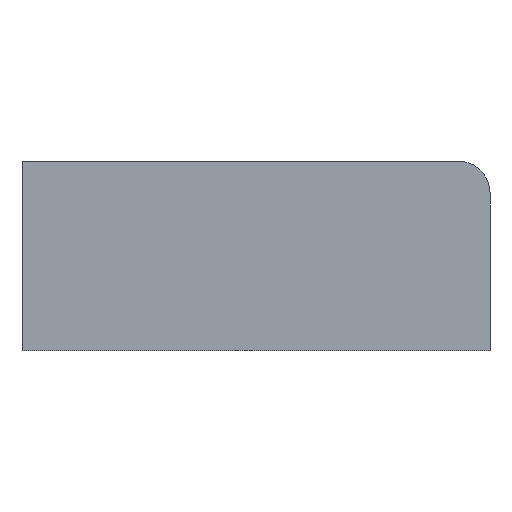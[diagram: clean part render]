
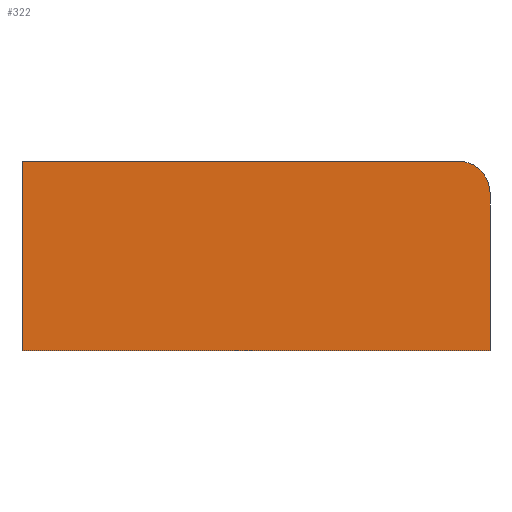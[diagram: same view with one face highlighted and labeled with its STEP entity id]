
A CAD part, front view. The second image highlights one B-rep face of the part: STEP entity #322.
In plain terms, the highlighted planar face has unit normal (0, -1, 0).
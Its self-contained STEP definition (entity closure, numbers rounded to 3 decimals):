
#211=CARTESIAN_POINT('Vertex',(590.,0.,199.)) ;
#214=CARTESIAN_POINT('Line Origine',(590.,0.,99.5)) ;
#218=CARTESIAN_POINT('Vertex',(590.,0.,0.)) ;
#238=CARTESIAN_POINT('Line Origine',(295.,0.,0.)) ;
#242=CARTESIAN_POINT('Vertex',(0.,0.,0.)) ;
#262=CARTESIAN_POINT('Line Origine',(0.,0.,119.5)) ;
#266=CARTESIAN_POINT('Vertex',(0.,0.,239.)) ;
#286=CARTESIAN_POINT('Line Origine',(275.,0.,239.)) ;
#290=CARTESIAN_POINT('Vertex',(550.,0.,239.)) ;
#305=CARTESIAN_POINT('Axis2P3D Location',(0.,0.,0.)) ;
#310=CARTESIAN_POINT('Axis2P3D Location',(550.,0.,199.)) ;
#215=DIRECTION('Vector Direction',(0.,0.,1.)) ;
#239=DIRECTION('Vector Direction',(-1.,0.,0.)) ;
#263=DIRECTION('Vector Direction',(0.,0.,-1.)) ;
#287=DIRECTION('Vector Direction',(1.,0.,0.)) ;
#306=DIRECTION('Axis2P3D Direction',(0.,1.,-0.)) ;
#307=DIRECTION('Axis2P3D XDirection',(-1.,0.,0.)) ;
#311=DIRECTION('Axis2P3D Direction',(0.,1.,-0.)) ;
#308=AXIS2_PLACEMENT_3D('Plane Axis2P3D',#305,#306,#307) ;
#312=AXIS2_PLACEMENT_3D('Circle Axis2P3D',#310,#311,$) ;
#316=ORIENTED_EDGE('',*,*,#314,.F.) ;
#317=ORIENTED_EDGE('',*,*,#292,.F.) ;
#318=ORIENTED_EDGE('',*,*,#268,.F.) ;
#319=ORIENTED_EDGE('',*,*,#244,.F.) ;
#320=ORIENTED_EDGE('',*,*,#220,.F.) ;
#216=VECTOR('Line Direction',#215,1.) ;
#240=VECTOR('Line Direction',#239,1.) ;
#264=VECTOR('Line Direction',#263,1.) ;
#288=VECTOR('Line Direction',#287,1.) ;
#322=ADVANCED_FACE('PartBody',(#321),#309,.F.) ;
#313=CIRCLE('generated circle',#312,40.) ;
#220=EDGE_CURVE('',#212,#219,#217,.F.) ;
#244=EDGE_CURVE('',#219,#243,#241,.T.) ;
#268=EDGE_CURVE('',#243,#267,#265,.F.) ;
#292=EDGE_CURVE('',#267,#291,#289,.T.) ;
#314=EDGE_CURVE('',#291,#212,#313,.T.) ;
#315=EDGE_LOOP('',(#316,#317,#318,#319,#320)) ;
#321=FACE_OUTER_BOUND('',#315,.T.) ;
#217=LINE('Line',#214,#216) ;
#241=LINE('Line',#238,#240) ;
#265=LINE('Line',#262,#264) ;
#289=LINE('Line',#286,#288) ;
#309=PLANE('',#308) ;
#212=VERTEX_POINT('',#211) ;
#219=VERTEX_POINT('',#218) ;
#243=VERTEX_POINT('',#242) ;
#267=VERTEX_POINT('',#266) ;
#291=VERTEX_POINT('',#290) ;
